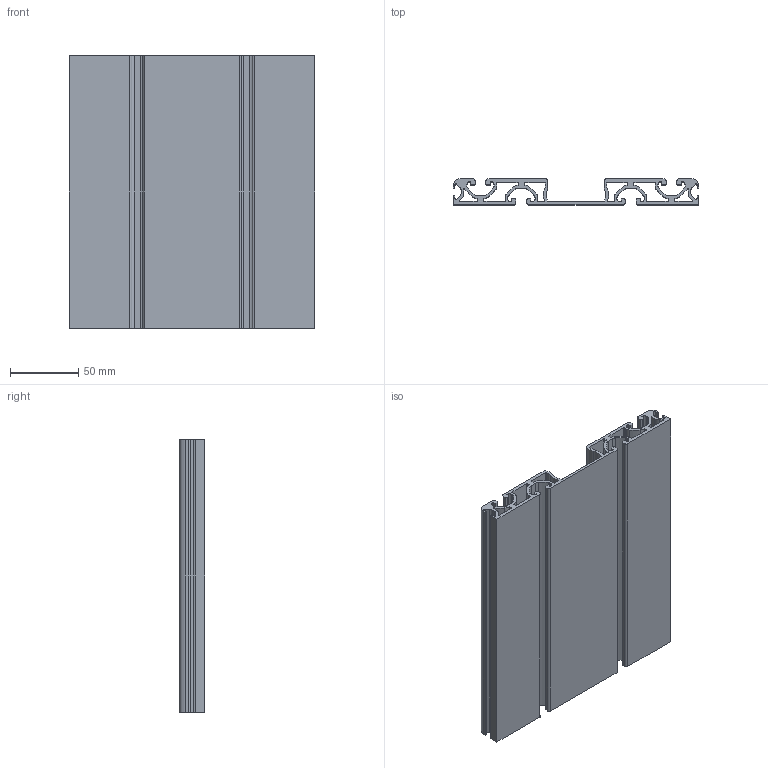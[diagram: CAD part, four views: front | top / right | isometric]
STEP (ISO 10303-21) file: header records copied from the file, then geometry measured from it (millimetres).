
FILE_DESCRIPTION(/* description */ ('STEP AP214'),/* implementation_level */ '2;1');
FILE_NAME(/* name */ '02082P.1800',/* time_stamp */ '2026-01-21T16:39:08+01:00',/* author */ ('License CC BY-ND 4.0'),/* organization */ ('CADENAS'),/* preprocessor_version */ 'ST-DEVELOPER v20',/* originating_system */ 'PARTsolutions',/* authorisation */ ' ');
FILE_SCHEMA (('AUTOMOTIVE_DESIGN {1 0 10303 214 3 1 1}'));
Length unit declared in the file: millimetre
Products named in the file (1): 02082P.1800
Bounding box: 180 x 19 x 200 mm (x, y, z)
Volume: 242879.2 mm3; surface area: 196586.1 mm2
Topology: 1 solids, 1 shells, 250 faces, 744 edges, 496 vertices
Faces by surface type: cylinder 150, plane 100
Entity records: 8562 total; most frequent: DIRECTION 1546, CARTESIAN_POINT 1491, ORIENTED_EDGE 1488, EDGE_CURVE 744, AXIS2_PLACEMENT_3D 551, VERTEX_POINT 496, LINE 444, VECTOR 444
